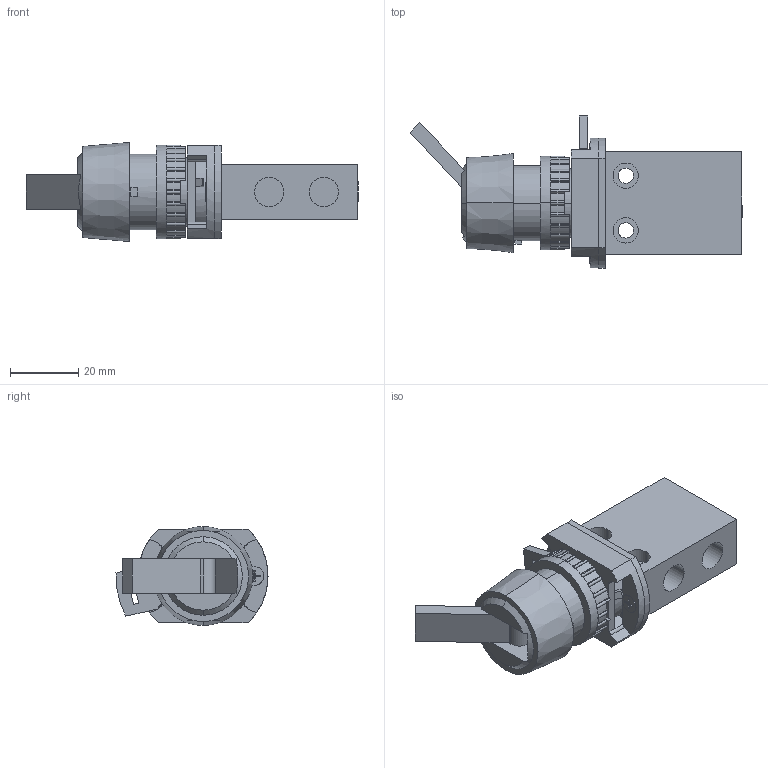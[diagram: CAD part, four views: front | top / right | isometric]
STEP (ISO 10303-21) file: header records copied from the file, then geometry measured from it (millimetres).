
FILE_DESCRIPTION (( 'STEP AP214' ), '1' );
FILE_NAME ('18-T-23-016---T-28-311_Airtec.step', '2018-11-15T13:13:20', ( '' ), ( '' ), 'SwSTEP 2.0', 'SolidWorks 2010', '' );
FILE_SCHEMA (( 'AUTOMOTIVE_DESIGN' ));
Length unit declared in the file: millimetre
Products named in the file (3): 18-T-23-016-Airtec; T-28-311_161115; 18-T-23-016---T-28-311_Airtec
Assembly tree (2 placements, depth 2):
  18-T-23-016---T-28-311_Airtec
    T-28-311_161115
    18-T-23-016-Airtec
Bounding box: 97.16 x 44.48 x 29 mm (x, y, z)
Volume: 40703.3 mm3; surface area: 16086.8 mm2
Topology: 2 solids, 2 shells, 516 faces, 1394 edges, 897 vertices
Faces by surface type: cylinder 214, plane 212, cone 71, torus 19
Entity records: 16900 total; most frequent: CARTESIAN_POINT 3490, DIRECTION 2965, ORIENTED_EDGE 2772, EDGE_CURVE 1386, AXIS2_PLACEMENT_3D 1168, VERTEX_POINT 897, CIRCLE 647, VECTOR 629
